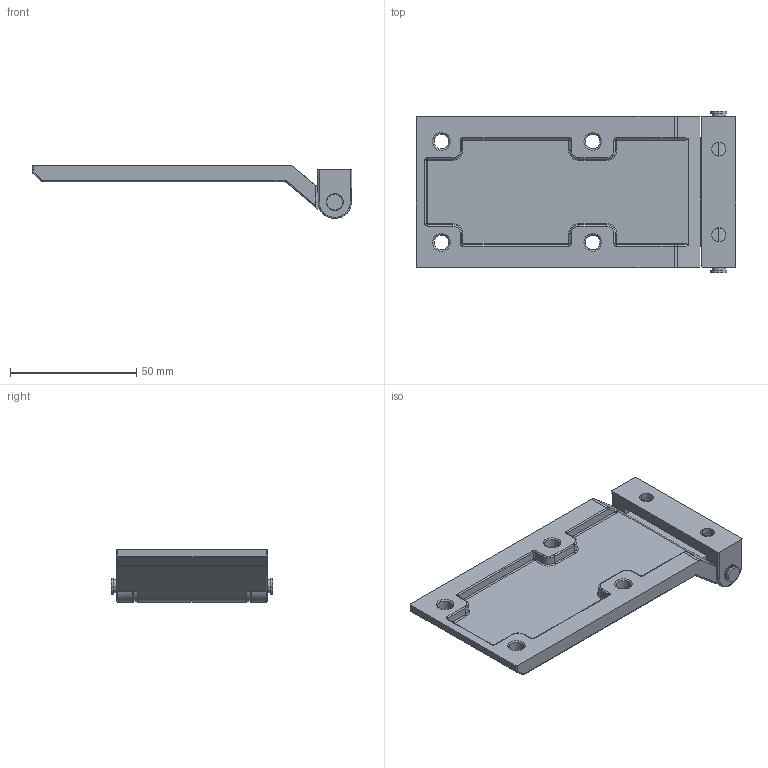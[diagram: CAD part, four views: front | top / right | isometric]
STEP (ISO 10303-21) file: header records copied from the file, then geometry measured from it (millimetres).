
FILE_DESCRIPTION((''),'2;1');
FILE_NAME('CL282-3_ASM','2019-02-20T',('aef6'),(''),'PRO/ENGINEER BY PARAMETRIC TECHNOLOGY CORPORATION, 2010040','PRO/ENGINEER BY PARAMETRIC TECHNOLOGY CORPORATION, 2010040','');
FILE_SCHEMA(('AUTOMOTIVE_DESIGN_CC2 { 1 2 10303 214 -1 1 5 2 }'));
Length unit declared in the file: millimetre
Products named in the file (5): GS-1; GS-3; GS-2; GS-XZ; CL282-3_ASM
Assembly tree (5 placements, depth 2):
  CL282-3_ASM
    GS-1
    GS-3  x2
    GS-2
    GS-XZ
Bounding box: 126.75 x 64 x 21 mm (x, y, z)
Volume: 40296.6 mm3; surface area: 25412.7 mm2
Topology: 5 solids, 5 shells, 233 faces, 539 edges, 314 vertices
Faces by surface type: cylinder 90, plane 55, cone 46, bspline 22, torus 20
Entity records: 7925 total; most frequent: CARTESIAN_POINT 2782, DIRECTION 1059, ORIENTED_EDGE 1026, EDGE_CURVE 513, AXIS2_PLACEMENT_3D 410, VERTEX_POINT 302, EDGE_LOOP 249, VECTOR 239
